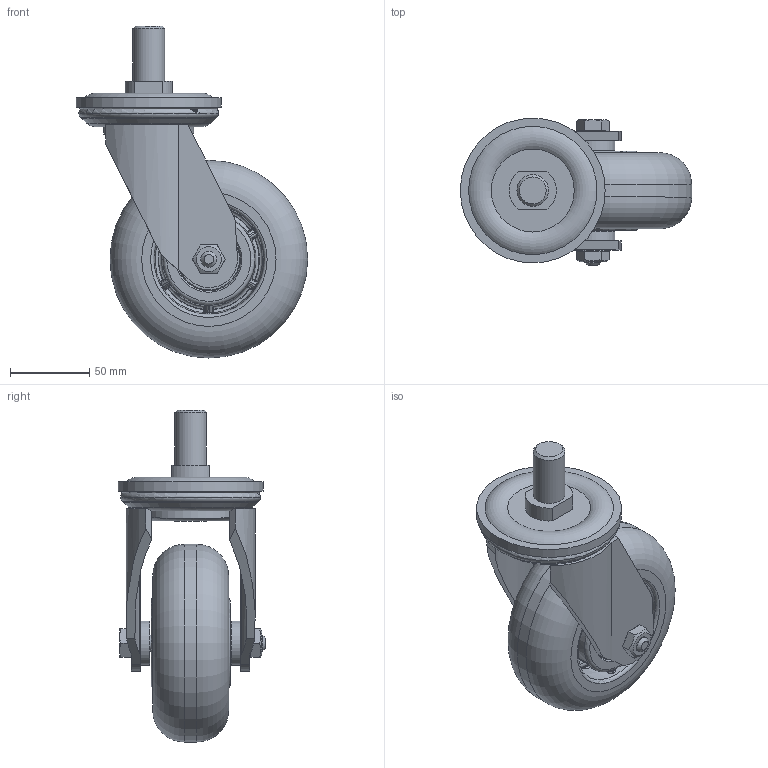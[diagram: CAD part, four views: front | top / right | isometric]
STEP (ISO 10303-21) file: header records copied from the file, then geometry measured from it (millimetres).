
FILE_DESCRIPTION(/* description */ (''),/* implementation_level */ '2;1');
FILE_NAME(/* name */ '35A97_5_F.stp',/* time_stamp */ '2022-10-07T09:49:51+08:00',/* author */ (''),/* organization */ (''),/* preprocessor_version */ 'ST-DEVELOPER v14',/* originating_system */ 'SIEMENS PLM Software NX 8.0',/* authorisation */ '');
FILE_SCHEMA (('AUTOMOTIVE_DESIGN { 1 0 10303 214 3 1 1 1 }'));
Length unit declared in the file: millimetre
Products named in the file (1): 35A97_5_F
Bounding box: 146.3 x 93.3 x 210 mm (x, y, z)
Surface area: 139406.5 mm2
Topology: 2 solids, 3 shells, 906 faces, 2383 edges, 1494 vertices
Faces by surface type: plane 398, cylinder 197, bspline 193, torus 48, cone 43, sphere 25, extrusion 2
Full cylindrical faces by diameter (mm): 10.104 x2, 12 x1, 12.2 x2, 16 x1, 16.2 x2, 16.3 x1, 17 x2, 20 x1, 20.5 x2, 22.276 x1, 24.188 x4, 26.256 x1, 28 x2, 32.812 x2, 39.85 x2, 40 x3, 57 x1, 91.6 x1, 125 x1
Entity records: 31737 total; most frequent: CARTESIAN_POINT 11682, ORIENTED_EDGE 4364, DIRECTION 3837, EDGE_CURVE 2182, AXIS2_PLACEMENT_3D 1668, VERTEX_POINT 1408, EDGE_LOOP 1130, CIRCLE 933
